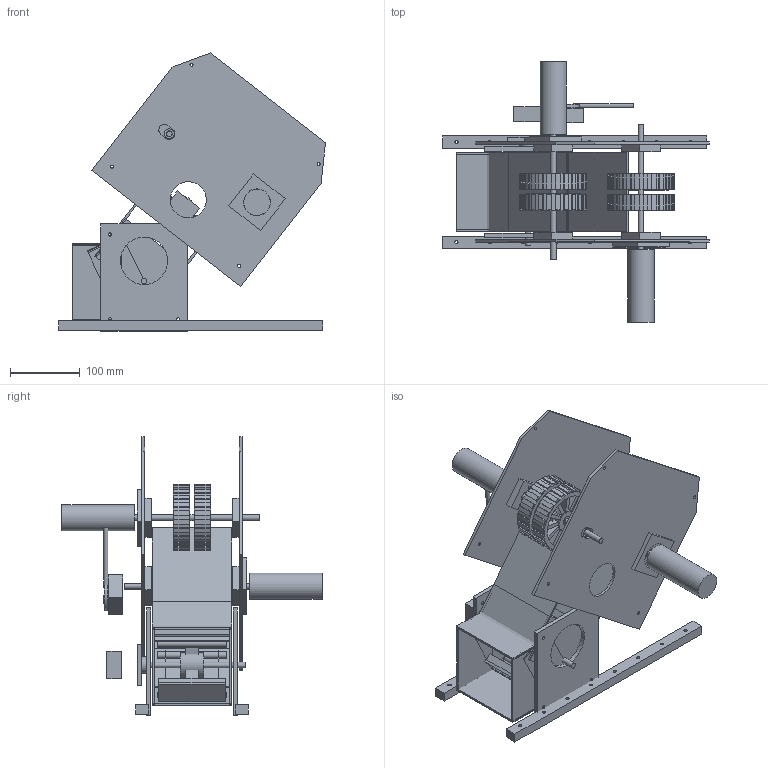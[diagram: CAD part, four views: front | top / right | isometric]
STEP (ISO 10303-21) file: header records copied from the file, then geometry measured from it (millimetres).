
FILE_DESCRIPTION(('Open CASCADE Model'),'2;1');
FILE_NAME('Open CASCADE Shape Model','2026-09-21T10:11:18',('Author'),( 'Open CASCADE'),'Open CASCADE STEP processor 7.8','Open CASCADE 7.8' ,'Unknown');
FILE_SCHEMA(('AUTOMOTIVE_DESIGN { 1 0 10303 214 1 1 1 1 }'));
Length unit declared in the file: millimetre
Products named in the file (78): paddle_launcher_constrained_pollen; base_rail_-72; base_rail_+72; guide_floor_1; guide_roof_1; guide_wall_1_-1; guide_wall_1_+1; guide_floor_2; guide_roof_2; guide_wall_2_-1; guide_wall_2_+1; guide_floor_3; guide_roof_3; guide_wall_3_-1; guide_wall_3_+1; paddle_support_cheek_-1; paddle_support_cheek_+1; paddle_shaft_8mm; paddle_hub; paddle_arm_1; paddle_hinge_1; paddle_blade_1; paddle_flex_tip_1; paddle_arm_2; paddle_hinge_2; paddle_blade_2; paddle_flex_tip_2; paddle_arm_3; paddle_hinge_3; paddle_blade_3; paddle_flex_tip_3; paddle_cr_servo_envelope; paddle_servo_block; paddle_shaft_clamp; one_way_finger_-1; one_way_finger_+1; shooter_side_plate_-1; shooter_side_plate_+1; flywheel_shaft_upper; gecko_flywheel_upper_1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
Assembly tree (77 placements, depth 2):
  paddle_launcher_constrained_pollen
    base_rail_-72
    base_rail_+72
    guide_floor_1
    guide_roof_1
    guide_wall_1_-1
    guide_wall_1_+1
    guide_floor_2
    guide_roof_2
    guide_wall_2_-1
    guide_wall_2_+1
    guide_floor_3
    guide_roof_3
    guide_wall_3_-1
    guide_wall_3_+1
    paddle_support_cheek_-1
    paddle_support_cheek_+1
    paddle_shaft_8mm
    paddle_hub
    paddle_arm_1
    paddle_hinge_1
    paddle_blade_1
    paddle_flex_tip_1
    paddle_arm_2
    paddle_hinge_2
    paddle_blade_2
    paddle_flex_tip_2
    paddle_arm_3
    paddle_hinge_3
    paddle_blade_3
    paddle_flex_tip_3
    paddle_cr_servo_envelope
    paddle_servo_block
    paddle_shaft_clamp
    one_way_finger_-1
    one_way_finger_+1
    shooter_side_plate_-1
    shooter_side_plate_+1
    flywheel_shaft_upper
    gecko_flywheel_upper_1
    sonic_hub_upper_1
    hub_bolt_upper_1_1
    hub_bolt_upper_1_2
    hub_bolt_upper_1_3
    hub_bolt_upper_1_4
    gecko_flywheel_upper_2
    sonic_hub_upper_2
    hub_bolt_upper_2_1
    hub_bolt_upper_2_2
    hub_bolt_upper_2_3
    hub_bolt_upper_2_4
    bearing_block_upper_-1
    bearing_block_upper_+1
    motor_mount_upper
    motor_envelope_upper
    flywheel_shaft_lower
    gecko_flywheel_lower_1
    sonic_hub_lower_1
    hub_bolt_lower_1_1
    hub_bolt_lower_1_2
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Bounding box: 383.85 x 374 x 400.02 mm (x, y, z)
Volume: 2306145.5 mm3; surface area: 988519.7 mm2
Topology: 77 solids, 77 shells, 1179 faces, 2727 edges, 1818 vertices
Faces by surface type: plane 1030, cylinder 149
Full cylindrical faces by diameter (mm): 4 x16, 4.2 x19, 4.4 x20, 4.6 x24, 6 x2, 8 x3, 8.2 x6, 10 x3, 14.2 x12, 16.4 x1, 24 x1, 30 x4, 32 x4, 36 x1, 38 x2, 38.4 x2, 44 x5, 52 x2, 68 x2, 79 x4, 92 x4
Entity records: 71384 total; most frequent: CARTESIAN_POINT 11520, DIRECTION 11357, LINE 6769, VECTOR 6769, ORIENTED_EDGE 5454, PCURVE 5454, DEFINITIONAL_REPRESENTATION 5454, EDGE_CURVE 2727
